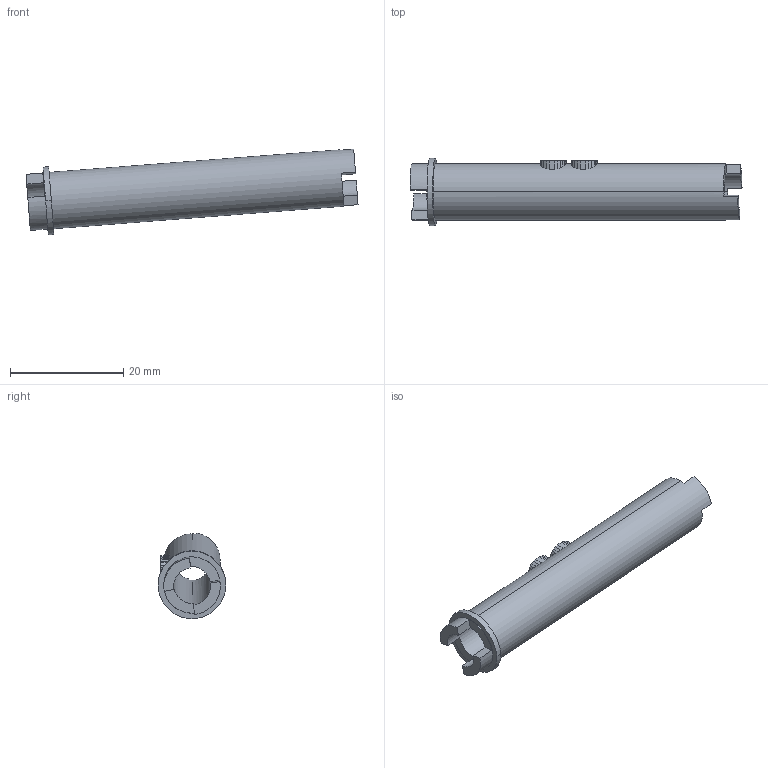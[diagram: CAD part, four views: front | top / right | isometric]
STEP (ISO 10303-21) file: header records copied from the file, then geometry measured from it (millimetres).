
FILE_DESCRIPTION((''),'2;1');
FILE_NAME('0000236848_PRT','2025-11-12T18:32:52',('Wyndorps'),(''),'CREO PARAMETRIC BY PTC INC, 2025010','CREO PARAMETRIC BY PTC INC, 2025010','');
FILE_SCHEMA(('CONFIG_CONTROL_DESIGN'));
Length unit declared in the file: millimetre
Products named in the file (1): 0000236848_PRT
Bounding box: 58.71 x 12 x 15.14 mm (x, y, z)
Volume: 2553.3 mm3; surface area: 3118.5 mm2
Topology: 1 solids, 1 shells, 142 faces, 414 edges, 276 vertices
Faces by surface type: plane 134, cylinder 8
Entity records: 4682 total; most frequent: CARTESIAN_POINT 1008, ORIENTED_EDGE 828, DIRECTION 652, EDGE_CURVE 414, VECTOR 284, LINE 284, VERTEX_POINT 276, AXIS2_PLACEMENT_3D 184
